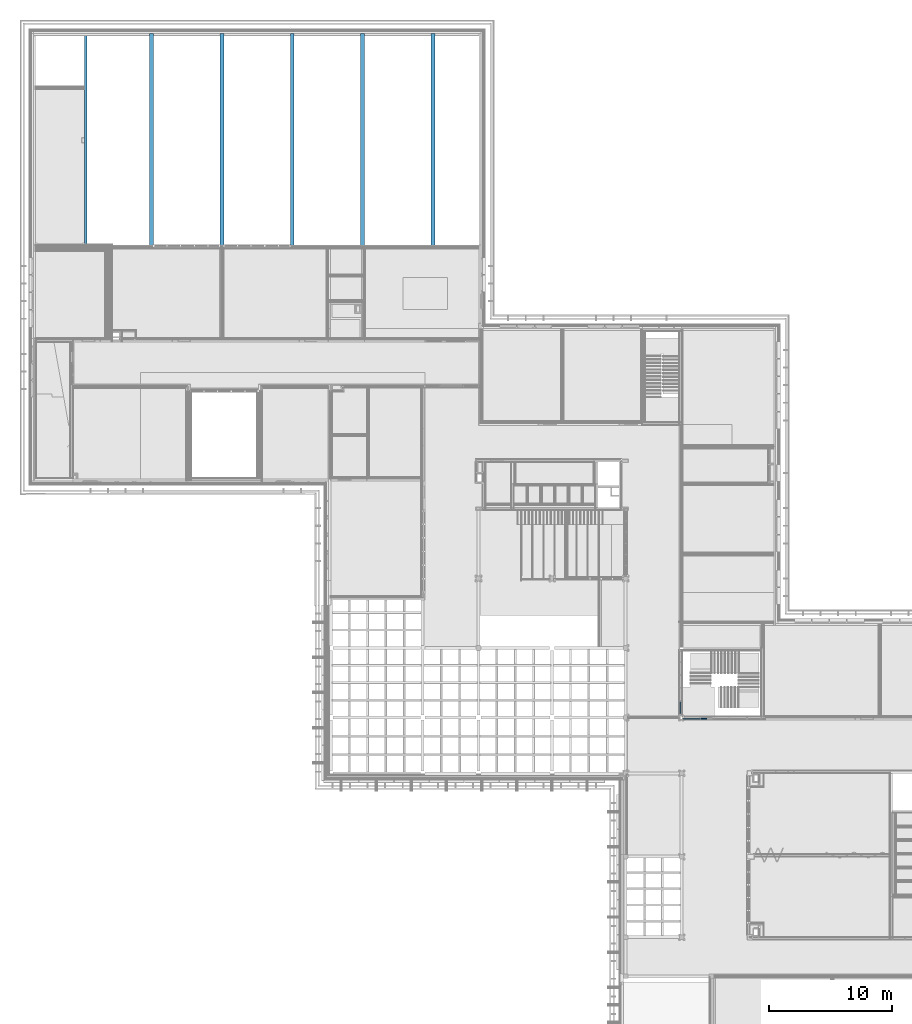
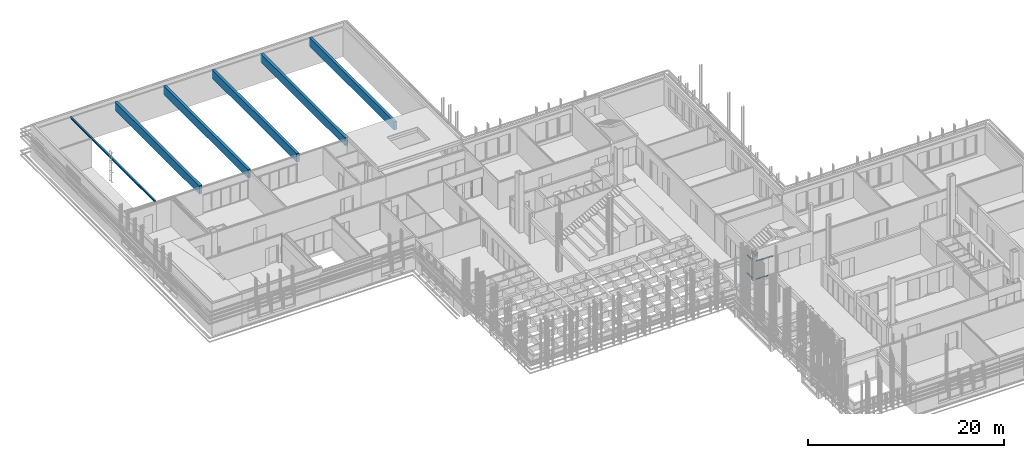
# One storey, part 46 of 139: 7 members, 6 beams, 2 elements without a shape of their own.
"""IFC2X3 building model written with IfcOpenShell, lengths in millimetres."""

from ifc_helpers import new_model, entity, si_unit, converted_unit, derived_unit, money_unit, direction, frame, origin_with_axes, place, context, subcontext, project, spatial, faceted_brep, material, type_object, element, aggregate, save


model = new_model("IFC2X3")

# Units and contexts
model_context = context("Model", 3, precision=0.01, world=origin_with_axes(), true_north=direction((0.0, 1.0)))
body_context = subcontext(model_context, "Body", "Model", "MODEL_VIEW")
ifc_project = project(units=[si_unit("LENGTHUNIT", "METRE", prefix="MILLI"), si_unit("AREAUNIT", "SQUARE_METRE"), si_unit("VOLUMEUNIT", "CUBIC_METRE"), converted_unit("PLANEANGLEUNIT", "DEGREE", entity("IfcPlaneAngleMeasure", 0.0174532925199), si_unit("PLANEANGLEUNIT", "RADIAN"), dimensions=[0, 0, 0, 0, 0, 0, 0]), money_unit("EUR"), converted_unit("TIMEUNIT", "Year", entity("IfcTimeMeasure", 31556926.0), si_unit("TIMEUNIT", "SECOND"), dimensions=[0, 0, 1, 0, 0, 0, 0]), si_unit("MASSUNIT", "GRAM", prefix="KILO"), si_unit("THERMODYNAMICTEMPERATUREUNIT", "DEGREE_CELSIUS"), si_unit("LUMINOUSINTENSITYUNIT", "LUMEN"), si_unit("ENERGYUNIT", "JOULE", prefix="MEGA"), derived_unit("THERMALCONDUCTANCEUNIT", [(si_unit("POWERUNIT", "WATT"), 1), (si_unit("LENGTHUNIT", "METRE"), -1), (si_unit("THERMODYNAMICTEMPERATUREUNIT", "KELVIN"), -1)]), derived_unit("SPECIFICHEATCAPACITYUNIT", [(si_unit("ENERGYUNIT", "JOULE"), 1), (si_unit("MASSUNIT", "GRAM", prefix="KILO"), -1), (si_unit("THERMODYNAMICTEMPERATUREUNIT", "KELVIN"), -1)]), derived_unit("MASSDENSITYUNIT", [(si_unit("MASSUNIT", "GRAM", prefix="KILO"), 1), (si_unit("VOLUMEUNIT", "CUBIC_METRE"), -1)])], contexts=[model_context])

# Site, building, storey
site_placement = place(None, origin_with_axes())
site = spatial("IfcSite", under=ifc_project, at=site_placement, Name="Kolde pst 67a", CompositionType="ELEMENT")
building_placement = place(site_placement, origin_with_axes())
building = spatial("IfcBuilding", under=site, at=building_placement, Name="Riigigümnaasium", CompositionType="ELEMENT")
storey_placement = place(building_placement, frame((0.0, 0.0, 4600.0), z_axis=(0.0, 0.0, 1.0), x_axis=(1.0, 0.0, 0.0)))
storey = spatial("IfcBuildingStorey", under=building, at=storey_placement, Name="2. korrus", CompositionType="ELEMENT", Elevation=4600.0)

# Curtain wall, members
curtain_wall_type = type_object("IfcCurtainWallType", Name="Curtain Wall Type", PredefinedType="NOTDEFINED")
curtain_wall_1_placement = place(storey_placement, frame((52619.9941222, 32759.7635899, -0.000120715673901), z_axis=(0.0, 0.0, 1.0), x_axis=(1.0, 0.0, 0.0)))
curtain_wall_1 = element("IfcCurtainWall", 1, at=curtain_wall_1_placement, inside=storey, type_object=curtain_wall_type, Name="KLAASSEIN")
ifc_material_1 = material(Name="_GENEERILINE MATERJAL")
member_type = type_object("IfcMemberType", Name="Boundary Frame 50 x 100", PredefinedType="MEMBER")
member_1_placement = place(curtain_wall_1_placement, frame((0.0, -2703.00000311, 2300.00012072), z_axis=(0.0, -1.0, 0.0), x_axis=(0.0, 0.0, 1.0)))
member_1 = element("IfcMember", 2, at=member_1_placement, type_object=member_type, material=ifc_material_1, Name="RF RAAM SERV-599", ObjectType="MEMBER", context=body_context, shape_type="Brep", body=[
    faceted_brep([(-50.0, -10.0, 0.0), (-50.0, -100.0, 0.0), (-50.0, -100.0, 971.999996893), (-50.0, -10.0, 971.999996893), (-25.0, -10.0, 0.0), (-25.0, 0.0, 0.0), (0.0, 0.0, 0.0), (0.0, -100.0, 0.0), (0.0, -100.0, 971.999996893), (-25.0, -10.0, 971.999996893), (0.0, 0.0, 971.999996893), (-25.0, 0.0, 971.999996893)], [[[0, 1, 2, 3]], [[4, 5, 6, 7, 1, 0]], [[1, 7, 8, 2]], [[9, 3, 2, 8, 10, 11]], [[9, 4, 0, 3]], [[5, 4, 9, 11]], [[11, 10, 6, 5]], [[7, 6, 10, 8]]]),
])
member_2_placement = place(curtain_wall_1_placement, frame((0.0, -2703.00000311, 0.0), z_axis=(0.0, -1.0, 0.0), x_axis=(0.0, 0.0, 1.0)))
member_2 = element("IfcMember", 3, at=member_2_placement, type_object=member_type, material=ifc_material_1, Name="RF RAAM SERV-595", ObjectType="MEMBER", context=body_context, shape_type="Brep", body=[
    faceted_brep([(50.0, -10.0, -10.0), (50.0, -10.0, 971.999996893), (50.0, -100.0, 971.999996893), (50.0, -100.0, -10.0), (25.0, -10.0, 971.999996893), (25.0, -10.0, -10.0), (25.0, 0.0, 971.999996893), (0.0, 0.0, 971.999996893), (0.0, -100.0, 971.999996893), (0.0, -100.0, -10.0), (0.0, 0.0, -10.0), (25.0, 0.0, -10.0)], [[[0, 1, 2, 3]], [[4, 1, 0, 5]], [[4, 6, 7, 8, 2, 1]], [[3, 2, 8, 9]], [[5, 0, 3, 9, 10, 11]], [[11, 6, 4, 5]], [[6, 11, 10, 7]], [[9, 8, 7, 10]]]),
])
aggregate(curtain_wall_1, [member_1, member_2])

curtain_wall_2_placement = place(storey_placement, frame((56010.5010848, 28629.9996643, -9.132059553e-06), z_axis=(0.0, 0.0, 1.0), x_axis=(1.0, 0.0, 0.0)))
curtain_wall_2 = element("IfcCurtainWall", 4, at=curtain_wall_2_placement, inside=storey, type_object=curtain_wall_type, Name="KLAASSEIN")
member_3_placement = place(curtain_wall_2_placement, frame((-1730.56261823, 0.0, 0.0), z_axis=(-1.0, 0.0, 0.0), x_axis=(0.0, 0.0, 1.0)))
member_3 = element("IfcMember", 5, at=member_3_placement, type_object=member_type, material=ifc_material_1, Name="RF RAAM SERV-528", ObjectType="MEMBER", context=body_context, shape_type="Brep", body=[
    faceted_brep([(50.0, 10.0, -10.0), (50.0, 100.0, -10.0), (50.0, 100.0, 549.881697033), (50.0, 10.0, 549.881697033), (25.0, 10.0, -10.0), (25.0, 0.0, -10.0), (0.0, 0.0, -10.0), (0.0, 100.0, -10.0), (0.0, 100.0, 549.881697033), (25.0, 10.0, 549.881697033), (0.0, 0.0, 549.881697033), (25.0, 0.0, 549.881697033)], [[[0, 1, 2, 3]], [[4, 5, 6, 7, 1, 0]], [[1, 7, 8, 2]], [[9, 3, 2, 8, 10, 11]], [[9, 4, 0, 3]], [[5, 4, 9, 11]], [[11, 10, 6, 5]], [[7, 6, 10, 8]]]),
])
member_4_placement = place(curtain_wall_2_placement, frame((-2280.44431527, 0.0, 2300.00000913), z_axis=(-1.0, 0.0, 0.0), x_axis=(0.0, 0.0, 1.0)))
member_4 = element("IfcMember", 6, at=member_4_placement, type_object=member_type, material=ifc_material_1, Name="RF RAAM SERV-531", ObjectType="MEMBER", context=body_context, shape_type="Brep", body=[
    faceted_brep([(-50.0, 10.0, 0.0), (-50.0, 10.0, 760.062415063), (-50.0, 100.0, 760.062415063), (-50.0, 100.0, 0.0), (-25.0, 10.0, 785.062415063), (-25.0, 10.0, 0.0), (-25.0, 0.0, 785.062415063), (0.0, 0.0, 810.062415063), (0.0, 100.0, 810.062415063), (0.0, 100.0, 0.0), (0.0, 0.0, 0.0), (-25.0, 0.0, 0.0)], [[[0, 1, 2, 3]], [[4, 1, 0, 5]], [[4, 6, 7, 8, 2, 1]], [[3, 2, 8, 9]], [[5, 0, 3, 9, 10, 11]], [[11, 6, 4, 5]], [[6, 11, 10, 7]], [[9, 8, 7, 10]]]),
])
member_5_placement = place(curtain_wall_2_placement, frame((-2280.44431527, 0.0, 0.0), z_axis=(-1.0, 0.0, 0.0), x_axis=(0.0, 0.0, 1.0)))
member_5 = element("IfcMember", 7, at=member_5_placement, type_object=member_type, material=ifc_material_1, Name="RF RAAM SERV-529", ObjectType="MEMBER", context=body_context, shape_type="Brep", body=[
    faceted_brep([(50.0, 10.0, 0.0), (50.0, 100.0, 0.0), (50.0, 100.0, 760.062415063), (50.0, 10.0, 760.062415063), (25.0, 10.0, 0.0), (25.0, 0.0, 0.0), (0.0, 0.0, 0.0), (0.0, 100.0, 0.0), (0.0, 100.0, 810.062415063), (25.0, 10.0, 785.062415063), (0.0, 0.0, 810.062415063), (25.0, 0.0, 785.062415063)], [[[0, 1, 2, 3]], [[4, 5, 6, 7, 1, 0]], [[1, 7, 8, 2]], [[9, 3, 2, 8, 10, 11]], [[9, 4, 0, 3]], [[5, 4, 9, 11]], [[11, 10, 6, 5]], [[7, 6, 10, 8]]]),
])
member_6_placement = place(curtain_wall_2_placement, frame((-1730.56261823, 0.0, 2300.00000913), z_axis=(-1.0, 0.0, 0.0), x_axis=(0.0, 0.0, 1.0)))
member_6 = element("IfcMember", 8, at=member_6_placement, type_object=member_type, material=ifc_material_1, Name="RF RAAM SERV-543", ObjectType="MEMBER", context=body_context, shape_type="Brep", body=[
    faceted_brep([(-50.0, 10.0, 0.0), (-50.0, 10.0, 549.881697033), (-50.0, 100.0, 549.881697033), (-50.0, 100.0, 0.0), (-25.0, 10.0, 549.881697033), (-25.0, 10.0, 0.0), (-25.0, 0.0, 549.881697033), (0.0, 0.0, 549.881697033), (0.0, 100.0, 549.881697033), (0.0, 100.0, 0.0), (0.0, 0.0, 0.0), (-25.0, 0.0, 0.0)], [[[0, 1, 2, 3]], [[4, 1, 0, 5]], [[4, 6, 7, 8, 2, 1]], [[3, 2, 8, 9]], [[5, 0, 3, 9, 10, 11]], [[11, 6, 4, 5]], [[6, 11, 10, 7]], [[9, 8, 7, 10]]]),
])
member_7_placement = place(curtain_wall_2_placement, frame((-1170.44431527, 0.0, 2300.00000913), z_axis=(-1.0, 0.0, 0.0), x_axis=(0.0, 0.0, 1.0)))
member_7 = element("IfcMember", 9, at=member_7_placement, type_object=member_type, material=ifc_material_1, Name="RF RAAM SERV-549", ObjectType="MEMBER", context=body_context, shape_type="Brep", body=[
    faceted_brep([(-50.0, 10.0, 0.0), (-50.0, 10.0, 560.118302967), (-50.0, 100.0, 560.118302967), (-50.0, 100.0, 0.0), (-25.0, 10.0, 560.118302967), (-25.0, 10.0, 0.0), (-25.0, 0.0, 560.118302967), (0.0, 0.0, 560.118302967), (0.0, 100.0, 560.118302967), (0.0, 100.0, 0.0), (0.0, 0.0, 0.0), (-25.0, 0.0, 0.0)], [[[0, 1, 2, 3]], [[4, 1, 0, 5]], [[4, 6, 7, 8, 2, 1]], [[3, 2, 8, 9]], [[5, 0, 3, 9, 10, 11]], [[11, 6, 4, 5]], [[6, 11, 10, 7]], [[9, 8, 7, 10]]]),
])
aggregate(curtain_wall_2, [member_3, member_4, member_5, member_6, member_7])

# Beams
ifc_material_2 = material(Name="_VIIMISTLUSKIHT - puit")
beam_type_1 = type_object("IfcBeamType", Name="_VIIMISTLUSKIHT - puit 320 x 1040", PredefinedType="BEAM")
beam_1_placement = place(storey_placement, frame((32550.0, 84439.9836433, 3000.0), z_axis=(0.0, 0.0, 1.0), x_axis=(-1.0, 0.0, 0.0)))
element("IfcBeam", 10, at=beam_1_placement, inside=storey, type_object=beam_type_1, material=ifc_material_2, Name="Tala", ObjectType="BEAM", context=body_context, shape_type="Brep", body=[
    faceted_brep([(160.0, 0.0, 520.0), (160.0, 17350.0028095, 520.0), (-160.0, 17350.0028095, 520.0), (-160.0, 0.0, 520.0), (160.0, 0.0, -520.0), (160.0, 17350.0028095, -520.0), (-160.0, 17350.0028095, -520.0), (-160.0, 0.0, -520.0)], [[[0, 1, 2, 3]], [[4, 5, 1, 0]], [[2, 1, 5, 6]], [[3, 2, 6, 7]], [[4, 0, 3, 7]], [[7, 6, 5, 4]]]),
])
for number, where, z_axis, x_axis in (
    (11, (26820.0, 84439.9999608, 3000.0), (0.0, 0.0, 1.0), (-1.0, 0.0, 0.0)),
    (12, (21090.0, 84439.9836433, 3000.0), (0.0, 0.0, 1.0), (-1.0, 0.0, 0.0)),
    (13, (15360.0, 84439.9999608, 3000.0), (0.0, 0.0, 1.0), (-1.0, 0.0, 0.0)),
    (14, (9630.0, 84439.9999608, 3000.0), (0.0, 0.0, 1.0), (-1.0, 0.0, 0.0)),
):
    element("IfcBeam", number, at=place(storey_placement, frame(where, z_axis=z_axis, x_axis=x_axis)), inside=storey, type_object=beam_type_1, material=ifc_material_2, Name="Tala", ObjectType="BEAM", context=body_context, shape_type="Brep", body=[
        faceted_brep([(160.0, 0.0, 520.0), (160.0, 17296.0036732, 520.0), (-160.0, 17296.0036732, 520.0), (-160.0, 0.0, 520.0), (160.0, 0.0, -520.0), (160.0, 17296.0036732, -520.0), (-160.0, 17296.0036732, -520.0), (-160.0, 0.0, -520.0)], [[[0, 1, 2, 3]], [[4, 5, 1, 0]], [[2, 1, 5, 6]], [[3, 2, 6, 7]], [[4, 0, 3, 7]], [[7, 6, 5, 4]]]),
    ])
ifc_material_3 = material(Name="Teras, S355")
beam_type_2 = type_object("IfcBeamType", Name="HE200A 190 x 200", PredefinedType="BEAM")
beam_2_placement = place(storey_placement, frame((4270.0, 84439.9999608, 3425.0), z_axis=(0.0, 0.0, 1.0), x_axis=(-1.0, 0.0, 0.0)))
element("IfcBeam", 15, at=beam_2_placement, inside=storey, type_object=beam_type_2, material=ifc_material_3, Name="Tala", ObjectType="BEAM", context=body_context, shape_type="Brep", body=[
    faceted_brep([(-100.0, 0.0, 95.0), (-100.0, 17296.0036732, 95.0), (-100.0, 17296.0036732, 85.0), (-100.0, 0.0, 85.0), (100.0, 0.0, 95.0), (100.0, 17296.0036732, 95.0), (100.0, 17296.0036732, 85.0), (21.25, 17296.0036732, 85.0), (12.25, 17296.0036732, 82.5884572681), (5.66154273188, 17296.0036732, 76.0), (3.25, 17296.0036732, 67.0), (3.25, 17296.0036732, -67.0), (5.66154273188, 17296.0036732, -76.0), (12.25, 17296.0036732, -82.5884572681), (21.25, 17296.0036732, -85.0), (100.0, 17296.0036732, -85.0), (100.0, 17296.0036732, -95.0), (-100.0, 17296.0036732, -95.0), (-100.0, 17296.0036732, -85.0), (-21.25, 17296.0036732, -85.0), (-12.25, 17296.0036732, -82.5884572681), (-5.66154273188, 17296.0036732, -76.0), (-3.25, 17296.0036732, -67.0), (-3.25, 17296.0036732, 67.0), (-5.66154273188, 17296.0036732, 76.0), (-12.25, 17296.0036732, 82.5884572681), (-21.25, 17296.0036732, 85.0), (-21.25, 0.0, 85.0), (-12.25, 0.0, 82.5884572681), (-5.66154273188, 0.0, 76.0), (-3.25, 0.0, 67.0), (-3.25, 0.0, -67.0), (-5.66154273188, 0.0, -76.0), (-12.25, 0.0, -82.5884572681), (-21.25, 0.0, -85.0), (-100.0, 0.0, -85.0), (-100.0, 0.0, -95.0), (100.0, 0.0, -95.0), (100.0, 0.0, -85.0), (21.25, 0.0, -85.0), (12.25, 0.0, -82.5884572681), (5.66154273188, 0.0, -76.0), (3.25, 0.0, -67.0), (3.25, 0.0, 67.0), (5.66154273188, 0.0, 76.0), (12.25, 0.0, 82.5884572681), (21.25, 0.0, 85.0), (100.0, 0.0, 85.0)], [[[0, 1, 2, 3]], [[4, 5, 1, 0]], [[2, 1, 5, 6, 7, 8, 9, 10, 11, 12, 13, 14, 15, 16, 17, 18, 19, 20, 21, 22, 23, 24, 25, 26]], [[3, 2, 26, 27]], [[4, 0, 3, 27, 28, 29, 30, 31, 32, 33, 34, 35, 36, 37, 38, 39, 40, 41, 42, 43, 44, 45, 46, 47]], [[47, 6, 5, 4]], [[46, 7, 6, 47]], [[45, 8, 7, 46]], [[44, 9, 8, 45]], [[43, 10, 9, 44]], [[42, 11, 10, 43]], [[41, 12, 11, 42]], [[40, 13, 12, 41]], [[39, 14, 13, 40]], [[38, 15, 14, 39]], [[37, 16, 15, 38]], [[36, 17, 16, 37]], [[35, 18, 17, 36]], [[34, 19, 18, 35]], [[33, 20, 19, 34]], [[32, 21, 20, 33]], [[31, 22, 21, 32]], [[30, 23, 22, 31]], [[29, 24, 23, 30]], [[28, 25, 24, 29]], [[27, 26, 25, 28]]]),
])

save(model, "model.ifc")
